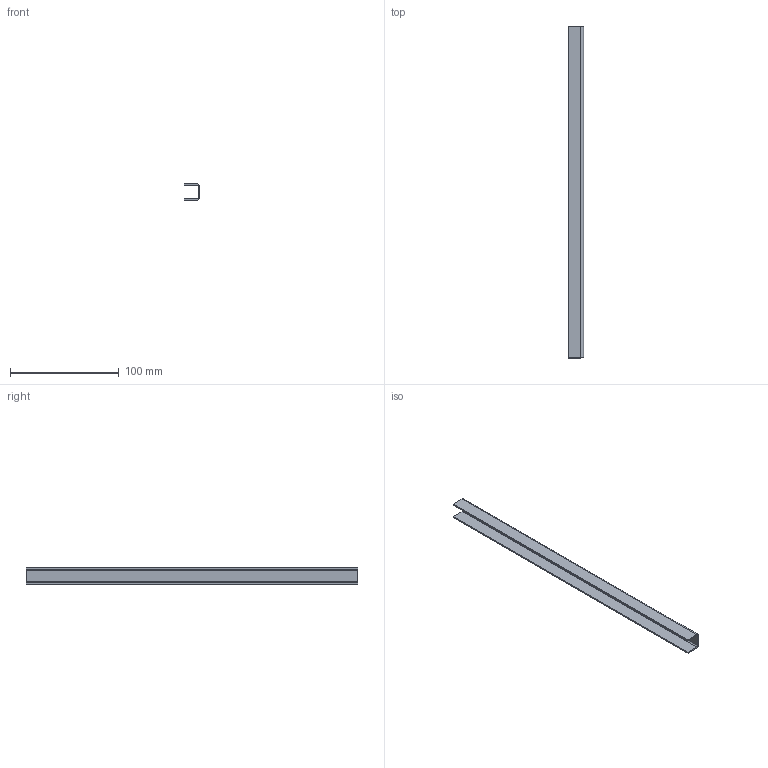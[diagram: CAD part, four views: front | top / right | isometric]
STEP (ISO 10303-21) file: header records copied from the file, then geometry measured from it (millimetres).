
FILE_DESCRIPTION(/* description */ (''),/* implementation_level */ '2;1');
FILE_NAME(/* name */ 'CSA Rack SideChannel.step',/* time_stamp */ '2024-07-04T09:48:11-07:00',/* author */ (''),/* organization */ (''),/* preprocessor_version */ 'ST-DEVELOPER v20',/* originating_system */ 'Autodesk Translation Framework v12.20.1.177',/* authorisation */ '');
FILE_SCHEMA (('AUTOMOTIVE_DESIGN { 1 0 10303 214 3 1 1 }'));
Length unit declared in the file: inch
Products named in the file (1): SideChannel
Bounding box: 13.94 x 304.8 x 15.19 mm (x, y, z)
Volume: 14789.7 mm3; surface area: 24622 mm2
Topology: 1 solids, 1 shells, 22 faces, 44 edges, 24 vertices
Faces by surface type: plane 18, cylinder 4
Entity records: 583 total; most frequent: DIRECTION 98, CARTESIAN_POINT 91, ORIENTED_EDGE 88, EDGE_CURVE 44, LINE 36, VECTOR 36, AXIS2_PLACEMENT_3D 31, VERTEX_POINT 24
